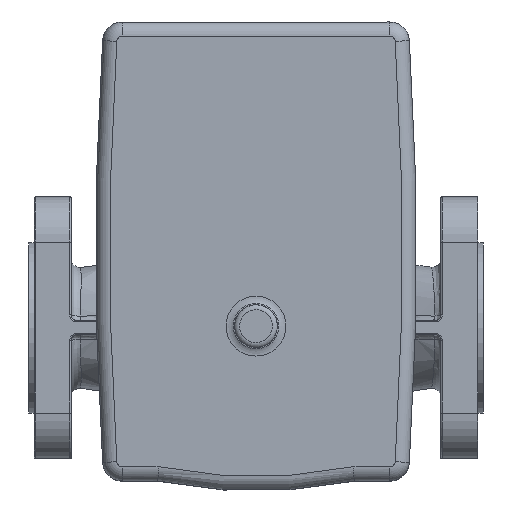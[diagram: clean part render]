
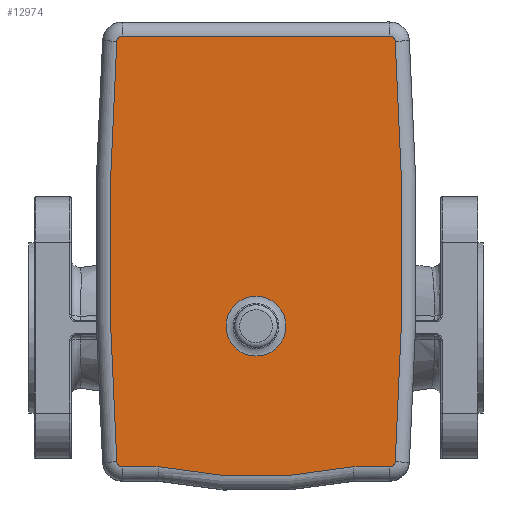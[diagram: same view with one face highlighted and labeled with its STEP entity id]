
A CAD part, top view. The second image highlights one B-rep face of the part: STEP entity #12974.
In plain terms, the highlighted planar face has unit normal (0, 0, 1).
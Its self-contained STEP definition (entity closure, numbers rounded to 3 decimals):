
#1433=LINE('',#27933,#2183);
#1434=LINE('',#27937,#2184);
#1435=LINE('',#27945,#2185);
#2183=VECTOR('',#20999,1000.);
#2184=VECTOR('',#21002,1000.);
#2185=VECTOR('',#21009,1000.);
#5301=ORIENTED_EDGE('',*,*,#7578,.T.);
#5302=ORIENTED_EDGE('',*,*,#7579,.T.);
#5303=ORIENTED_EDGE('',*,*,#7580,.T.);
#5304=ORIENTED_EDGE('',*,*,#7581,.T.);
#5305=ORIENTED_EDGE('',*,*,#7582,.T.);
#5306=ORIENTED_EDGE('',*,*,#7583,.T.);
#5307=ORIENTED_EDGE('',*,*,#7584,.T.);
#5308=ORIENTED_EDGE('',*,*,#7585,.T.);
#5309=ORIENTED_EDGE('',*,*,#7586,.T.);
#5310=ORIENTED_EDGE('',*,*,#7587,.T.);
#5311=ORIENTED_EDGE('',*,*,#7588,.T.);
#7578=EDGE_CURVE('',#8896,#8896,#9816,.T.);
#7579=EDGE_CURVE('',#8897,#8898,#9817,.F.);
#7580=EDGE_CURVE('',#8898,#8899,#1433,.F.);
#7581=EDGE_CURVE('',#8899,#8900,#9818,.F.);
#7582=EDGE_CURVE('',#8900,#8901,#1434,.F.);
#7583=EDGE_CURVE('',#8901,#8902,#9819,.F.);
#7584=EDGE_CURVE('',#8902,#8903,#9820,.F.);
#7585=EDGE_CURVE('',#8903,#8904,#9821,.F.);
#7586=EDGE_CURVE('',#8904,#8905,#1435,.F.);
#7587=EDGE_CURVE('',#8905,#8906,#9822,.F.);
#7588=EDGE_CURVE('',#8906,#8897,#9823,.F.);
#8896=VERTEX_POINT('',#27929);
#8897=VERTEX_POINT('',#27931);
#8898=VERTEX_POINT('',#27932);
#8899=VERTEX_POINT('',#27934);
#8900=VERTEX_POINT('',#27936);
#8901=VERTEX_POINT('',#27938);
#8902=VERTEX_POINT('',#27940);
#8903=VERTEX_POINT('',#27942);
#8904=VERTEX_POINT('',#27944);
#8905=VERTEX_POINT('',#27946);
#8906=VERTEX_POINT('',#27948);
#9816=CIRCLE('',#17583,10.521);
#9817=CIRCLE('',#17584,1.964);
#9818=CIRCLE('',#17585,169.964);
#9819=CIRCLE('',#17586,1.964);
#9820=CIRCLE('',#17587,1096.964);
#9821=CIRCLE('',#17588,1.964);
#9822=CIRCLE('',#17589,1.964);
#9823=CIRCLE('',#17590,1096.964);
#10709=EDGE_LOOP('',(#5301));
#10710=EDGE_LOOP('',(#5302,#5303,#5304,#5305,#5306,#5307,#5308,#5309,#5310,
#5311));
#11749=FACE_BOUND('',#10709,.T.);
#11750=FACE_BOUND('',#10710,.T.);
#12214=PLANE('',#17582);
#12974=ADVANCED_FACE('',(#11749,#11750),#12214,.F.);
#17582=AXIS2_PLACEMENT_3D('',#27927,#20993,#20994);
#17583=AXIS2_PLACEMENT_3D('',#27928,#20995,#20996);
#17584=AXIS2_PLACEMENT_3D('',#27930,#20997,#20998);
#17585=AXIS2_PLACEMENT_3D('',#27935,#21000,#21001);
#17586=AXIS2_PLACEMENT_3D('',#27939,#21003,#21004);
#17587=AXIS2_PLACEMENT_3D('',#27941,#21005,#21006);
#17588=AXIS2_PLACEMENT_3D('',#27943,#21007,#21008);
#17589=AXIS2_PLACEMENT_3D('',#27947,#21010,#21011);
#17590=AXIS2_PLACEMENT_3D('',#27949,#21012,#21013);
#20993=DIRECTION('',(0.,0.,-1.));
#20994=DIRECTION('',(-1.,0.,0.));
#20995=DIRECTION('',(0.,0.,-1.));
#20996=DIRECTION('',(-1.,0.,0.));
#20997=DIRECTION('',(0.,0.,-1.));
#20998=DIRECTION('',(-1.,0.,0.));
#20999=DIRECTION('',(0.,1.,0.));
#21000=DIRECTION('',(0.,0.,-1.));
#21001=DIRECTION('',(-1.,0.,0.));
#21002=DIRECTION('',(0.,1.,0.));
#21003=DIRECTION('',(0.,0.,-1.));
#21004=DIRECTION('',(-1.,0.,0.));
#21005=DIRECTION('',(0.,0.,-1.));
#21006=DIRECTION('',(-1.,0.,0.));
#21007=DIRECTION('',(0.,0.,-1.));
#21008=DIRECTION('',(-1.,0.,0.));
#21009=DIRECTION('',(0.,-1.,0.));
#21010=DIRECTION('',(0.,0.,-1.));
#21011=DIRECTION('',(-1.,0.,0.));
#21012=DIRECTION('',(0.,0.,-1.));
#21013=DIRECTION('',(-1.,0.,0.));
#27927=CARTESIAN_POINT('',(0.,0.,109.084));
#27928=CARTESIAN_POINT('',(0.,0.,109.084));
#27929=CARTESIAN_POINT('',(-10.521,0.,109.084));
#27930=CARTESIAN_POINT('',(-47.508,47.,109.084));
#27931=CARTESIAN_POINT('',(-47.64,48.96,109.084));
#27932=CARTESIAN_POINT('',(-49.472,47.,109.084));
#27933=CARTESIAN_POINT('',(-49.472,34.599,109.084));
#27934=CARTESIAN_POINT('',(-49.472,34.096,109.084));
#27935=CARTESIAN_POINT('',(117.037,0.,109.084));
#27936=CARTESIAN_POINT('',(-49.472,-34.096,109.084));
#27937=CARTESIAN_POINT('',(-49.472,-47.,109.084));
#27938=CARTESIAN_POINT('',(-49.472,-47.,109.084));
#27939=CARTESIAN_POINT('',(-47.508,-47.,109.084));
#27940=CARTESIAN_POINT('',(-47.64,-48.96,109.084));
#27941=CARTESIAN_POINT('',(26.246,1045.513,109.084));
#27942=CARTESIAN_POINT('',(100.132,-48.96,109.084));
#27943=CARTESIAN_POINT('',(100.,-47.,109.084));
#27944=CARTESIAN_POINT('',(101.964,-47.,109.084));
#27945=CARTESIAN_POINT('',(101.964,47.,109.084));
#27946=CARTESIAN_POINT('',(101.964,47.,109.084));
#27947=CARTESIAN_POINT('',(100.,47.,109.084));
#27948=CARTESIAN_POINT('',(100.132,48.96,109.084));
#27949=CARTESIAN_POINT('',(26.246,-1045.513,109.084));
